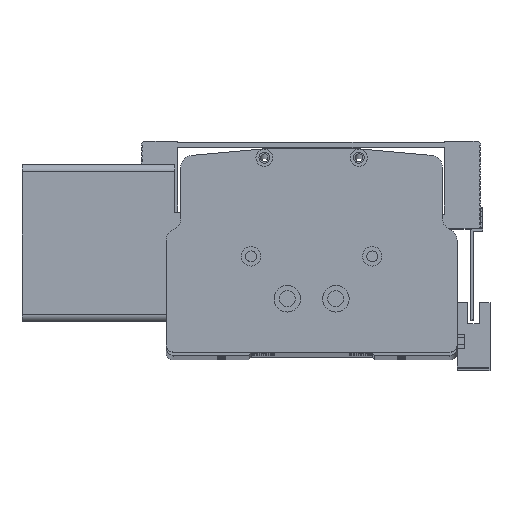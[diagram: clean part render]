
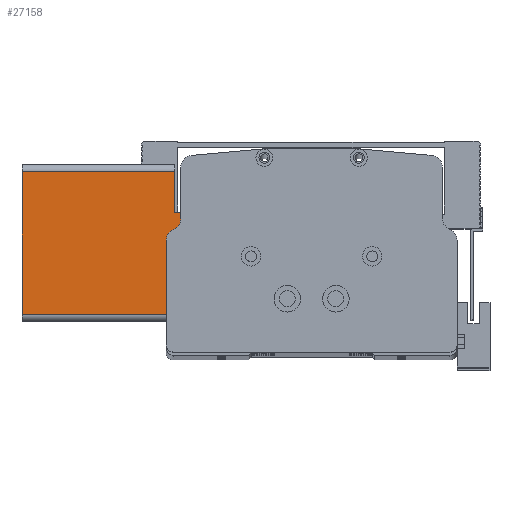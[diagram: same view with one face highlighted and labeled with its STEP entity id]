
A CAD part, top view. The second image highlights one B-rep face of the part: STEP entity #27158.
In plain terms, the highlighted planar face has unit normal (0, 0, 1) as drawn and (-1, 0, 0) by its records, which use the part's own axes.
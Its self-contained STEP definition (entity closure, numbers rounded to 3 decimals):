
#493 = VECTOR ( 'NONE', #93082, 1000. ) ;
#650 = VECTOR ( 'NONE', #34746, 1000. ) ;
#894 = CARTESIAN_POINT ( 'NONE',  ( 0., 45., 63. ) ) ;
#1147 = EDGE_CURVE ( 'NONE', #39511, #92078, #61688, .T. ) ;
#2210 = CARTESIAN_POINT ( 'NONE',  ( 0., 62., 87. ) ) ;
#2232 = AXIS2_PLACEMENT_3D ( 'NONE', #65536, #87265, #22481 ) ;
#2366 = CARTESIAN_POINT ( 'NONE',  ( 0., 80.26, 73. ) ) ;
#4148 = VECTOR ( 'NONE', #77964, 1000. ) ;
#4450 = CARTESIAN_POINT ( 'NONE',  ( 0., 45., 63. ) ) ;
#5217 = VECTOR ( 'NONE', #97316, 1000. ) ;
#5889 = EDGE_CURVE ( 'NONE', #42665, #47478, #72914, .T. ) ;
#6967 = VECTOR ( 'NONE', #82421, 1000. ) ;
#11997 = ORIENTED_EDGE ( 'NONE', *, *, #57223, .T. ) ;
#13569 = VERTEX_POINT ( 'NONE', #76292 ) ;
#17565 = ORIENTED_EDGE ( 'NONE', *, *, #121061, .T. ) ;
#17686 = ORIENTED_EDGE ( 'NONE', *, *, #46832, .F. ) ;
#22481 = DIRECTION ( 'NONE',  ( 0., 0., -1. ) ) ;
#27158 = ADVANCED_FACE ( 'NONE', ( #58858 ), #43785, .F. ) ;
#29267 = LINE ( 'NONE', #136269, #493 ) ;
#30046 = VECTOR ( 'NONE', #89641, 1000. ) ;
#31246 = LINE ( 'NONE', #4450, #60033 ) ;
#31741 = EDGE_CURVE ( 'NONE', #13569, #42665, #76274, .T. ) ;
#34746 = DIRECTION ( 'NONE',  ( 0., -1., 0. ) ) ;
#35750 = LINE ( 'NONE', #72023, #6967 ) ;
#39511 = VERTEX_POINT ( 'NONE', #137959 ) ;
#42665 = VERTEX_POINT ( 'NONE', #68312 ) ;
#43785 = PLANE ( 'NONE',  #2232 ) ;
#44986 = ORIENTED_EDGE ( 'NONE', *, *, #1147, .F. ) ;
#46832 = EDGE_CURVE ( 'NONE', #108675, #39511, #31246, .T. ) ;
#47478 = VERTEX_POINT ( 'NONE', #102366 ) ;
#48164 = CARTESIAN_POINT ( 'NONE',  ( 0., 3., 87. ) ) ;
#49356 = EDGE_CURVE ( 'NONE', #13569, #108675, #119080, .T. ) ;
#52308 = ORIENTED_EDGE ( 'NONE', *, *, #5889, .T. ) ;
#57223 = EDGE_CURVE ( 'NONE', #59440, #92078, #84143, .T. ) ;
#58858 = FACE_OUTER_BOUND ( 'NONE', #131209, .T. ) ;
#59440 = VERTEX_POINT ( 'NONE', #99007 ) ;
#60033 = VECTOR ( 'NONE', #80500, 1000. ) ;
#61688 = LINE ( 'NONE', #2366, #4148 ) ;
#65536 = CARTESIAN_POINT ( 'NONE',  ( 0., 0., 87. ) ) ;
#68312 = CARTESIAN_POINT ( 'NONE',  ( 0., 62., 0. ) ) ;
#70341 = ORIENTED_EDGE ( 'NONE', *, *, #31741, .T. ) ;
#72023 = CARTESIAN_POINT ( 'NONE',  ( 0., 0., 87. ) ) ;
#72914 = LINE ( 'NONE', #135773, #98268 ) ;
#76274 = LINE ( 'NONE', #86496, #5217 ) ;
#76292 = CARTESIAN_POINT ( 'NONE',  ( 0., 62., 63. ) ) ;
#77682 = CARTESIAN_POINT ( 'NONE',  ( 0., 80.26, 63. ) ) ;
#77964 = DIRECTION ( 'NONE',  ( 0., 1., 0. ) ) ;
#80500 = DIRECTION ( 'NONE',  ( 0., 0., 1. ) ) ;
#81217 = DIRECTION ( 'NONE',  ( 0., -1., 0. ) ) ;
#82421 = DIRECTION ( 'NONE',  ( 0., -1., 0. ) ) ;
#84143 = LINE ( 'NONE', #2210, #30046 ) ;
#84777 = ORIENTED_EDGE ( 'NONE', *, *, #49356, .F. ) ;
#86496 = CARTESIAN_POINT ( 'NONE',  ( 0., 62., 87. ) ) ;
#87265 = DIRECTION ( 'NONE',  ( 1., 0., 0. ) ) ;
#89641 = DIRECTION ( 'NONE',  ( 0., 0., -1. ) ) ;
#92078 = VERTEX_POINT ( 'NONE', #93409 ) ;
#93082 = DIRECTION ( 'NONE',  ( 0., 0., 1. ) ) ;
#93409 = CARTESIAN_POINT ( 'NONE',  ( 0., 62., 73. ) ) ;
#97316 = DIRECTION ( 'NONE',  ( 0., 0., -1. ) ) ;
#98268 = VECTOR ( 'NONE', #81217, 1000. ) ;
#99007 = CARTESIAN_POINT ( 'NONE',  ( 0., 62., 87. ) ) ;
#102366 = CARTESIAN_POINT ( 'NONE',  ( 0., 3., 0. ) ) ;
#108675 = VERTEX_POINT ( 'NONE', #894 ) ;
#117015 = VERTEX_POINT ( 'NONE', #48164 ) ;
#119080 = LINE ( 'NONE', #77682, #650 ) ;
#121061 = EDGE_CURVE ( 'NONE', #47478, #117015, #29267, .T. ) ;
#131209 = EDGE_LOOP ( 'NONE', ( #17686, #84777, #70341, #52308, #17565, #132451, #11997, #44986 ) ) ;
#132451 = ORIENTED_EDGE ( 'NONE', *, *, #138238, .F. ) ;
#135773 = CARTESIAN_POINT ( 'NONE',  ( 0., 0., 0. ) ) ;
#136269 = CARTESIAN_POINT ( 'NONE',  ( 0., 3., 87. ) ) ;
#137959 = CARTESIAN_POINT ( 'NONE',  ( 0., 45., 73. ) ) ;
#138238 = EDGE_CURVE ( 'NONE', #59440, #117015, #35750, .T. ) ;
